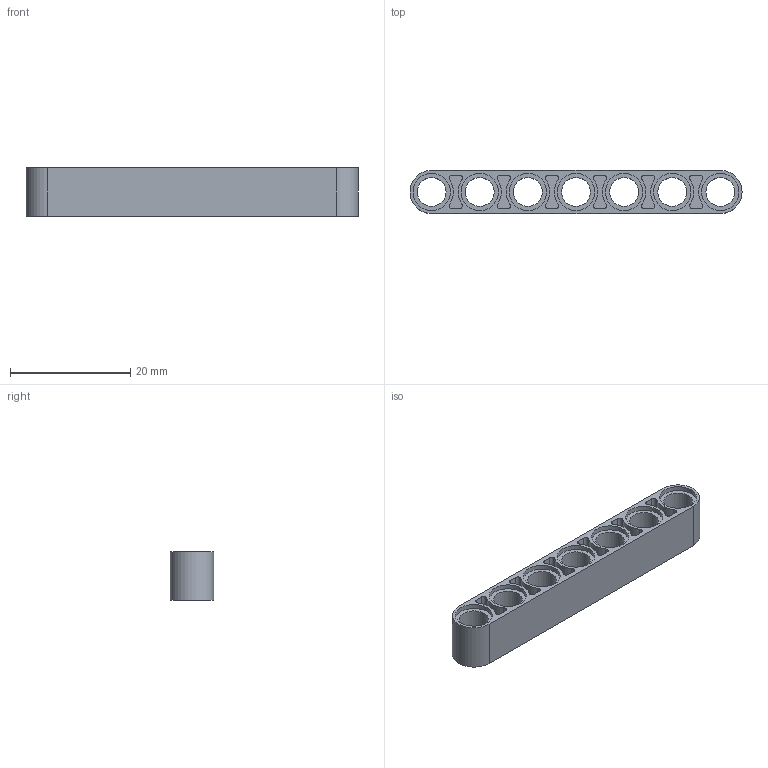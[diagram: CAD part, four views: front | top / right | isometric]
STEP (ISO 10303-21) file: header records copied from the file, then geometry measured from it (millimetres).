
FILE_DESCRIPTION(/* description */ ('Unknown'),/* implementation_level */ '2;1');
FILE_NAME(/* name */ 'Ye_4495934_AVV',/* time_stamp */ '2025-07-22T00:09:02+02:00',/* author */ ('Unknown'),/* organization */ ('Unknown'),/* preprocessor_version */ 'ST-DEVELOPER v19.4',/* originating_system */ 'Solid Edge',/* authorisation */ 'Unknown');
FILE_SCHEMA (('AUTOMOTIVE_DESIGN {1 0 10303 214 3 1 1}'));
Length unit declared in the file: millimetre
Products named in the file (1): Ye_4495934_AVV
Bounding box: 55.2 x 7.2 x 8 mm (x, y, z)
Volume: 1642.4 mm3; surface area: 2932.3 mm2
Topology: 1 solids, 1 shells, 149 faces, 363 edges, 242 vertices
Faces by surface type: cylinder 95, plane 54
Full cylindrical faces by diameter (mm): 4.8 x7, 6.2 x14
Entity records: 4420 total; most frequent: DIRECTION 832, CARTESIAN_POINT 734, ORIENTED_EDGE 684, EDGE_CURVE 342, AXIS2_PLACEMENT_3D 340, VERTEX_POINT 242, EDGE_LOOP 210, FACE_BOUND 210
